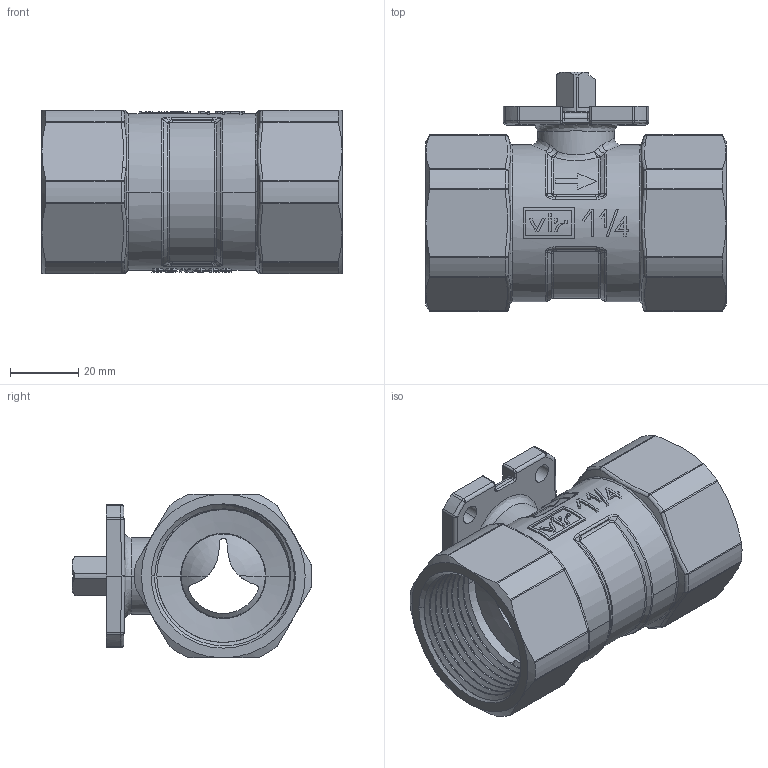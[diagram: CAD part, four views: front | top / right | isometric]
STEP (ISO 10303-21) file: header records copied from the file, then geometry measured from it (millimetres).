
FILE_DESCRIPTION((''),'2;1');
FILE_NAME('H980SX032_1527_SW0001','2015-05-20T',('64ciro'),('Vir spa'),'PRO/ENGINEER BY PARAMETRIC TECHNOLOGY CORPORATION, 2010280','PRO/ENGINEER BY PARAMETRIC TECHNOLOGY CORPORATION, 2010280','');
FILE_SCHEMA(('CONFIG_CONTROL_DESIGN'));
Products named in the file (1): H980SX032_1527_SW0001
Bounding box: 88 x 70.28 x 48 mm (x, y, z)
Volume: 87243.2 mm3; surface area: 45876.1 mm2
Topology: 1 solids, 1 shells, 1044 faces, 2680 edges, 1690 vertices
Faces by surface type: plane 548, cylinder 236, bspline 94, cone 64, torus 58, sphere 42, extrusion 2
Entity records: 44288 total; most frequent: CARTESIAN_POINT 20889, ORIENTED_EDGE 5360, DIRECTION 4146, EDGE_CURVE 2680, VERTEX_POINT 1690, AXIS2_PLACEMENT_3D 1587, EDGE_LOOP 1110, B_SPLINE_CURVE_WITH_KNOTS 1073
